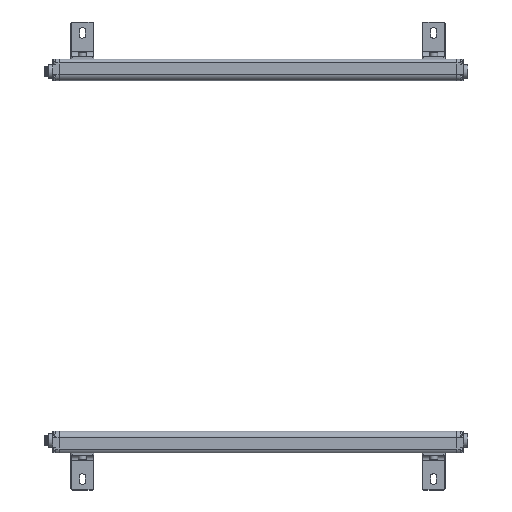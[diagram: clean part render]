
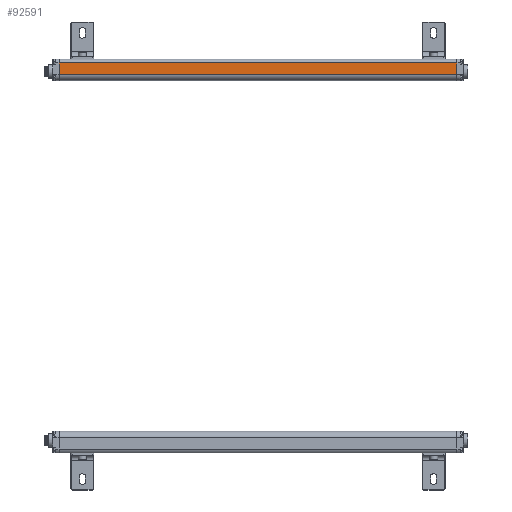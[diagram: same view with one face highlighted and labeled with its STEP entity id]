
A CAD part, left-side view. The second image highlights one B-rep face of the part: STEP entity #92591.
In plain terms, the highlighted planar face has unit normal (-1, 0, 0).
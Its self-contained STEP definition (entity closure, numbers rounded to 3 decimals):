
#3640 = ORIENTED_EDGE ( 'NONE', *, *, #133375, .F. ) ;
#4744 = VECTOR ( 'NONE', #59587, 1000. ) ;
#9622 = CARTESIAN_POINT ( 'NONE',  ( -17.35, 0., -6.175 ) ) ;
#10921 = EDGE_CURVE ( 'NONE', #44925, #118613, #100883, .T. ) ;
#11318 = CARTESIAN_POINT ( 'NONE',  ( -17.35, 0., -6.175 ) ) ;
#13921 = CARTESIAN_POINT ( 'NONE',  ( -17.35, 0., 8.225 ) ) ;
#15892 = DIRECTION ( 'NONE',  ( 0., -1., 0. ) ) ;
#21628 = FACE_OUTER_BOUND ( 'NONE', #66067, .T. ) ;
#22967 = DIRECTION ( 'NONE',  ( -1., 0., 0. ) ) ;
#24039 = CARTESIAN_POINT ( 'NONE',  ( -17.35, 505., 8.225 ) ) ;
#28711 = ORIENTED_EDGE ( 'NONE', *, *, #10921, .T. ) ;
#31004 = CARTESIAN_POINT ( 'NONE',  ( -17.35, 0., 0. ) ) ;
#34059 = ORIENTED_EDGE ( 'NONE', *, *, #123738, .T. ) ;
#37758 = CARTESIAN_POINT ( 'NONE',  ( -17.35, 0., -6.175 ) ) ;
#44851 = PLANE ( 'NONE',  #112167 ) ;
#44925 = VERTEX_POINT ( 'NONE', #129543 ) ;
#55048 = DIRECTION ( 'NONE',  ( 0., 0., 1. ) ) ;
#55086 = LINE ( 'NONE', #31004, #138665 ) ;
#59587 = DIRECTION ( 'NONE',  ( 0., -1., 0. ) ) ;
#66067 = EDGE_LOOP ( 'NONE', ( #28711, #34059, #130104, #3640 ) ) ;
#74184 = VECTOR ( 'NONE', #80879, 1000. ) ;
#80879 = DIRECTION ( 'NONE',  ( 0., 0., 1. ) ) ;
#87831 = DIRECTION ( 'NONE',  ( 0., 0., 1. ) ) ;
#92591 = ADVANCED_FACE ( 'NONE', ( #21628 ), #44851, .T. ) ;
#100430 = VERTEX_POINT ( 'NONE', #134759 ) ;
#100883 = LINE ( 'NONE', #37758, #140903 ) ;
#103810 = LINE ( 'NONE', #125187, #74184 ) ;
#109056 = LINE ( 'NONE', #13921, #4744 ) ;
#111229 = VERTEX_POINT ( 'NONE', #24039 ) ;
#112167 = AXIS2_PLACEMENT_3D ( 'NONE', #11318, #22967, #55048 ) ;
#118613 = VERTEX_POINT ( 'NONE', #9622 ) ;
#123738 = EDGE_CURVE ( 'NONE', #118613, #100430, #55086, .T. ) ;
#125016 = EDGE_CURVE ( 'NONE', #111229, #100430, #109056, .T. ) ;
#125187 = CARTESIAN_POINT ( 'NONE',  ( -17.35, 505., 0. ) ) ;
#129543 = CARTESIAN_POINT ( 'NONE',  ( -17.35, 505., -6.175 ) ) ;
#130104 = ORIENTED_EDGE ( 'NONE', *, *, #125016, .F. ) ;
#133375 = EDGE_CURVE ( 'NONE', #44925, #111229, #103810, .T. ) ;
#134759 = CARTESIAN_POINT ( 'NONE',  ( -17.35, 0., 8.225 ) ) ;
#138665 = VECTOR ( 'NONE', #87831, 1000. ) ;
#140903 = VECTOR ( 'NONE', #15892, 1000. ) ;
